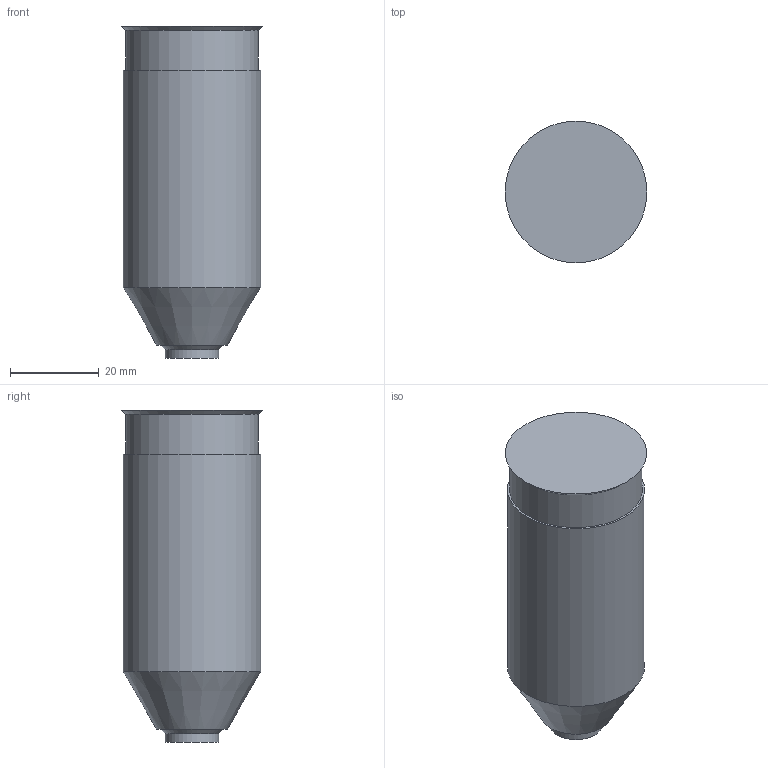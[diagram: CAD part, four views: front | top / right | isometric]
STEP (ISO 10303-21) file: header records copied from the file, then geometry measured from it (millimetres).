
FILE_DESCRIPTION(('STEP AP214'),'1');
FILE_NAME('SEDE IPM300-C.stp','2018-06-12T14:39:39',(' '),(' '),'Spatial InterOp 3D',' ',' ');
FILE_SCHEMA(('AUTOMOTIVE_DESIGN { 1 0 10303 214 1 1 1 1 }'));
Length unit declared in the file: millimetre
Products named in the file (1): 1
Bounding box: 32 x 32 x 75 mm (x, y, z)
Volume: 50356.8 mm3; surface area: 8017.9 mm2
Topology: 1 solids, 1 shells, 10 faces, 15 edges, 9 vertices
Faces by surface type: plane 4, cylinder 3, cone 3
Full cylindrical faces by diameter (mm): 12 x1, 30 x1, 31 x1
Entity records: 291 total; most frequent: DIRECTION 40, CARTESIAN_POINT 29, AXIS2_PLACEMENT_3D 20, EDGE_LOOP 18, ORIENTED_EDGE 18, FACE_OUTER_BOUND 13, STYLED_ITEM 10, PRESENTATION_STYLE_ASSIGNMENT 10
